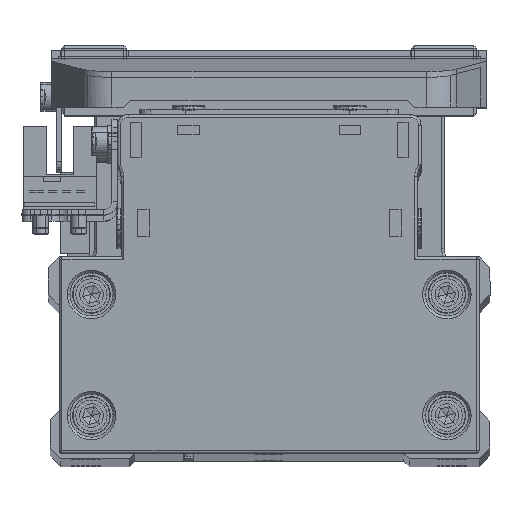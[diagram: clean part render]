
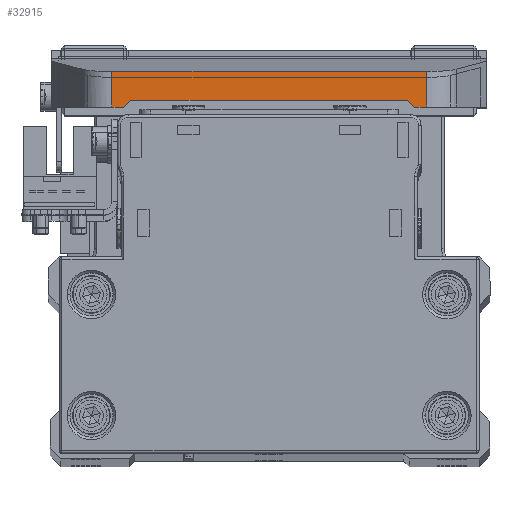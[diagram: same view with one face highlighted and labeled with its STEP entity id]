
A CAD part, top view. The second image highlights one B-rep face of the part: STEP entity #32915.
In plain terms, the highlighted planar face has unit normal (0, 0, 1) as drawn and (-1, 0, 0) by its records, which use the part's own axes.
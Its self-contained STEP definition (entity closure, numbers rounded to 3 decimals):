
#590 = DIRECTION ( 'NONE',  ( 0., 1., 0. ) ) ;
#940 = CARTESIAN_POINT ( 'NONE',  ( -67.5, 4., 29.225 ) ) ;
#1385 = VECTOR ( 'NONE', #6000, 1000. ) ;
#1514 = LINE ( 'NONE', #13547, #35903 ) ;
#1845 = VECTOR ( 'NONE', #17356, 1000. ) ;
#2707 = VECTOR ( 'NONE', #590, 1000. ) ;
#3146 = CARTESIAN_POINT ( 'NONE',  ( -67.5, 10.6, 27. ) ) ;
#3164 = DIRECTION ( 'NONE',  ( 0., 0., -1. ) ) ;
#4075 = ORIENTED_EDGE ( 'NONE', *, *, #17448, .F. ) ;
#4422 = VERTEX_POINT ( 'NONE', #27933 ) ;
#5207 = LINE ( 'NONE', #17271, #19384 ) ;
#5292 = CARTESIAN_POINT ( 'NONE',  ( -67.5, 4., -29.225 ) ) ;
#6000 = DIRECTION ( 'NONE',  ( 0., 0., -1. ) ) ;
#6117 = PLANE ( 'NONE',  #22918 ) ;
#6270 = CARTESIAN_POINT ( 'NONE',  ( -67.5, 10.6, 27. ) ) ;
#6615 = VERTEX_POINT ( 'NONE', #3146 ) ;
#6977 = EDGE_CURVE ( 'NONE', #17728, #6615, #21032, .T. ) ;
#8802 = LINE ( 'NONE', #20854, #11594 ) ;
#10633 = EDGE_CURVE ( 'NONE', #4422, #29697, #5207, .T. ) ;
#11594 = VECTOR ( 'NONE', #32912, 1000. ) ;
#12161 = CARTESIAN_POINT ( 'NONE',  ( -67.5, 10.6, 29.225 ) ) ;
#13340 = LINE ( 'NONE', #25413, #25952 ) ;
#13547 = CARTESIAN_POINT ( 'NONE',  ( -67.5, 4., 40.4 ) ) ;
#13580 = CARTESIAN_POINT ( 'NONE',  ( -67.5, 9.3, -25.5 ) ) ;
#14370 = ORIENTED_EDGE ( 'NONE', *, *, #38356, .T. ) ;
#15598 = LINE ( 'NONE', #27664, #2707 ) ;
#16013 = VECTOR ( 'NONE', #18328, 1000. ) ;
#17271 = CARTESIAN_POINT ( 'NONE',  ( -67.5, 10.6, 40.4 ) ) ;
#17356 = DIRECTION ( 'NONE',  ( 0., -1., 0. ) ) ;
#17448 = EDGE_CURVE ( 'NONE', #36211, #30956, #1514, .T. ) ;
#17728 = VERTEX_POINT ( 'NONE', #12161 ) ;
#18135 = EDGE_LOOP ( 'NONE', ( #31464, #14370, #21229, #37692, #4075, #22432, #29836, #35333 ) ) ;
#18180 = CARTESIAN_POINT ( 'NONE',  ( -67.5, 10.6, 40.4 ) ) ;
#18328 = DIRECTION ( 'NONE',  ( 0., -0.655, -0.756 ) ) ;
#18369 = CARTESIAN_POINT ( 'NONE',  ( -67.5, 4., -29.225 ) ) ;
#19384 = VECTOR ( 'NONE', #29339, 1000. ) ;
#20854 = CARTESIAN_POINT ( 'NONE',  ( -67.5, 9.3, 25.5 ) ) ;
#21032 = LINE ( 'NONE', #33096, #1385 ) ;
#21229 = ORIENTED_EDGE ( 'NONE', *, *, #10633, .T. ) ;
#21381 = EDGE_CURVE ( 'NONE', #29697, #30956, #32384, .T. ) ;
#22432 = ORIENTED_EDGE ( 'NONE', *, *, #30978, .T. ) ;
#22918 = AXIS2_PLACEMENT_3D ( 'NONE', #18180, #30257, #3164 ) ;
#25067 = CARTESIAN_POINT ( 'NONE',  ( -67.5, 10.6, -29.225 ) ) ;
#25413 = CARTESIAN_POINT ( 'NONE',  ( -67.5, 10.6, -27. ) ) ;
#25621 = DIRECTION ( 'NONE',  ( 0., 0., -1. ) ) ;
#25952 = VECTOR ( 'NONE', #37460, 1000. ) ;
#27459 = VERTEX_POINT ( 'NONE', #13580 ) ;
#27664 = CARTESIAN_POINT ( 'NONE',  ( -67.5, 10.6, 29.225 ) ) ;
#27933 = CARTESIAN_POINT ( 'NONE',  ( -67.5, 10.6, -27. ) ) ;
#29339 = DIRECTION ( 'NONE',  ( 0., 0., -1. ) ) ;
#29697 = VERTEX_POINT ( 'NONE', #25067 ) ;
#29836 = ORIENTED_EDGE ( 'NONE', *, *, #6977, .T. ) ;
#30257 = DIRECTION ( 'NONE',  ( 1., 0., 0. ) ) ;
#30891 = VERTEX_POINT ( 'NONE', #35780 ) ;
#30956 = VERTEX_POINT ( 'NONE', #18369 ) ;
#30978 = EDGE_CURVE ( 'NONE', #36211, #17728, #15598, .T. ) ;
#31464 = ORIENTED_EDGE ( 'NONE', *, *, #31869, .T. ) ;
#31869 = EDGE_CURVE ( 'NONE', #30891, #27459, #8802, .T. ) ;
#32384 = LINE ( 'NONE', #5292, #1845 ) ;
#32912 = DIRECTION ( 'NONE',  ( 0., 0., -1. ) ) ;
#32915 = ADVANCED_FACE ( 'NONE', ( #33210 ), #6117, .F. ) ;
#33096 = CARTESIAN_POINT ( 'NONE',  ( -67.5, 10.6, 40.4 ) ) ;
#33210 = FACE_OUTER_BOUND ( 'NONE', #18135, .T. ) ;
#33354 = LINE ( 'NONE', #6270, #16013 ) ;
#33377 = EDGE_CURVE ( 'NONE', #6615, #30891, #33354, .T. ) ;
#35333 = ORIENTED_EDGE ( 'NONE', *, *, #33377, .T. ) ;
#35780 = CARTESIAN_POINT ( 'NONE',  ( -67.5, 9.3, 25.5 ) ) ;
#35903 = VECTOR ( 'NONE', #25621, 1000. ) ;
#36211 = VERTEX_POINT ( 'NONE', #940 ) ;
#37460 = DIRECTION ( 'NONE',  ( 0., 0.655, -0.756 ) ) ;
#37692 = ORIENTED_EDGE ( 'NONE', *, *, #21381, .T. ) ;
#38356 = EDGE_CURVE ( 'NONE', #27459, #4422, #13340, .T. ) ;
